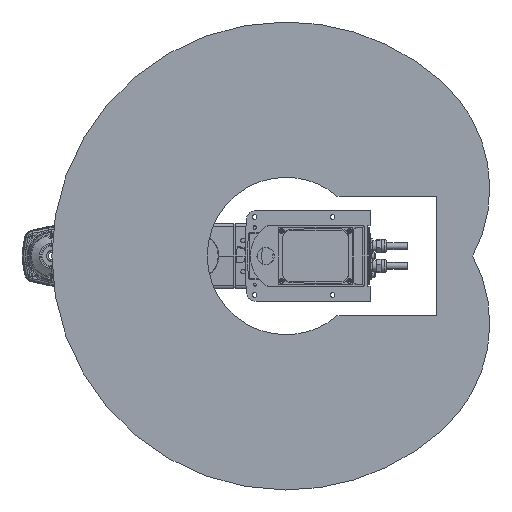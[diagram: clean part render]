
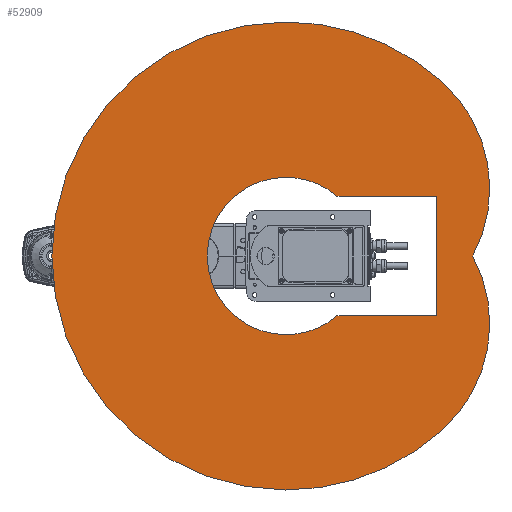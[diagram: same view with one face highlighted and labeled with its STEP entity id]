
A CAD part, front view. The second image highlights one B-rep face of the part: STEP entity #52909.
In plain terms, the highlighted planar face has unit normal (0, -1, 0).
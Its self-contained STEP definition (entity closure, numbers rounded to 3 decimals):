
#850 = DIRECTION ( 'NONE',  ( 0., -1., 0. ) ) ;
#11845 = VERTEX_POINT ( 'NONE', #237009 ) ;
#14800 = CARTESIAN_POINT ( 'NONE',  ( 0., -50., 0. ) ) ;
#21599 = DIRECTION ( 'NONE',  ( 0., 1., 0. ) ) ;
#23558 = DIRECTION ( 'NONE',  ( 0., 1., 0. ) ) ;
#23678 = ORIENTED_EDGE ( 'NONE', *, *, #191634, .F. ) ;
#24085 = AXIS2_PLACEMENT_3D ( 'NONE', #215050, #63551, #240434 ) ;
#28680 = FACE_BOUND ( 'NONE', #242321, .T. ) ;
#28753 = VERTEX_POINT ( 'NONE', #215798 ) ;
#29832 = EDGE_CURVE ( 'NONE', #190280, #173700, #168902, .T. ) ;
#34311 = ORIENTED_EDGE ( 'NONE', *, *, #154833, .F. ) ;
#36273 = VERTEX_POINT ( 'NONE', #48480 ) ;
#36365 = CIRCLE ( 'NONE', #101315, 151.311 ) ;
#40180 = DIRECTION ( 'NONE',  ( 0., 0., 1. ) ) ;
#44773 = DIRECTION ( 'NONE',  ( 0., -1., 0. ) ) ;
#45051 = CIRCLE ( 'NONE', #123862, 450. ) ;
#48368 = EDGE_CURVE ( 'NONE', #11845, #36273, #36365, .T. ) ;
#48480 = CARTESIAN_POINT ( 'NONE',  ( 0., -50., 151.311 ) ) ;
#52909 = ADVANCED_FACE ( 'NONE', ( #289719, #28680 ), #115179, .F. ) ;
#59450 = CIRCLE ( 'NONE', #130006, 151.311 ) ;
#60009 = ORIENTED_EDGE ( 'NONE', *, *, #219771, .F. ) ;
#63551 = DIRECTION ( 'NONE',  ( 0., 1., 0. ) ) ;
#69503 = EDGE_CURVE ( 'NONE', #36273, #223658, #186032, .T. ) ;
#75474 = CIRCLE ( 'NONE', #292931, 450. ) ;
#82720 = CARTESIAN_POINT ( 'NONE',  ( 0., -50., -450. ) ) ;
#101315 = AXIS2_PLACEMENT_3D ( 'NONE', #196285, #44773, #221636 ) ;
#108131 = LINE ( 'NONE', #111422, #242691 ) ;
#108960 = CIRCLE ( 'NONE', #176357, 275. ) ;
#111422 = CARTESIAN_POINT ( 'NONE',  ( 58.549, -50., 115. ) ) ;
#112557 = ORIENTED_EDGE ( 'NONE', *, *, #251528, .F. ) ;
#115179 = PLANE ( 'NONE',  #318365 ) ;
#116016 = AXIS2_PLACEMENT_3D ( 'NONE', #152338, #850, #177775 ) ;
#118565 = ORIENTED_EDGE ( 'NONE', *, *, #29832, .F. ) ;
#119702 = DIRECTION ( 'NONE',  ( 0., 1., 0. ) ) ;
#120371 = CIRCLE ( 'NONE', #295689, 275. ) ;
#121967 = DIRECTION ( 'NONE',  ( 1., 0., 0. ) ) ;
#123862 = AXIS2_PLACEMENT_3D ( 'NONE', #130877, #307714, #156369 ) ;
#130006 = AXIS2_PLACEMENT_3D ( 'NONE', #14800, #191705, #40180 ) ;
#130877 = CARTESIAN_POINT ( 'NONE',  ( 0., -50., 0. ) ) ;
#136449 = CARTESIAN_POINT ( 'NONE',  ( 301.109, -50., 334.415 ) ) ;
#140789 = CARTESIAN_POINT ( 'NONE',  ( 301.109, -50., -334.415 ) ) ;
#141757 = DIRECTION ( 'NONE',  ( 0., 1., 0. ) ) ;
#143714 = EDGE_CURVE ( 'NONE', #173700, #304537, #45051, .T. ) ;
#146430 = ORIENTED_EDGE ( 'NONE', *, *, #143714, .F. ) ;
#150921 = CARTESIAN_POINT ( 'NONE',  ( 290., -50., -115. ) ) ;
#152338 = CARTESIAN_POINT ( 'NONE',  ( 0., -50., 0. ) ) ;
#152457 = VECTOR ( 'NONE', #121967, 1000. ) ;
#154539 = CARTESIAN_POINT ( 'NONE',  ( 0., -50., 450. ) ) ;
#154833 = EDGE_CURVE ( 'NONE', #223658, #236527, #59450, .T. ) ;
#156369 = DIRECTION ( 'NONE',  ( 0., 0., 1. ) ) ;
#164646 = CARTESIAN_POINT ( 'NONE',  ( 290., -50., -65.025 ) ) ;
#168902 = CIRCLE ( 'NONE', #24085, 450. ) ;
#170103 = ORIENTED_EDGE ( 'NONE', *, *, #179052, .F. ) ;
#173068 = CARTESIAN_POINT ( 'NONE',  ( 117.098, -50., -130.05 ) ) ;
#173700 = VERTEX_POINT ( 'NONE', #154539 ) ;
#175038 = CARTESIAN_POINT ( 'NONE',  ( 117.098, -50., 130.05 ) ) ;
#176357 = AXIS2_PLACEMENT_3D ( 'NONE', #173068, #21599, #198475 ) ;
#176685 = ORIENTED_EDGE ( 'NONE', *, *, #321176, .F. ) ;
#177775 = DIRECTION ( 'NONE',  ( 0., 0., 1. ) ) ;
#179052 = EDGE_CURVE ( 'NONE', #304537, #319097, #120371, .T. ) ;
#186032 = CIRCLE ( 'NONE', #116016, 151.311 ) ;
#190280 = VERTEX_POINT ( 'NONE', #82720 ) ;
#191634 = EDGE_CURVE ( 'NONE', #28753, #11845, #108131, .T. ) ;
#191705 = DIRECTION ( 'NONE',  ( 0., -1., 0. ) ) ;
#196285 = CARTESIAN_POINT ( 'NONE',  ( 0., -50., 0. ) ) ;
#198475 = DIRECTION ( 'NONE',  ( 0., 0., 1. ) ) ;
#200442 = DIRECTION ( 'NONE',  ( 0., 0., 1. ) ) ;
#215050 = CARTESIAN_POINT ( 'NONE',  ( 0., -50., 0. ) ) ;
#215798 = CARTESIAN_POINT ( 'NONE',  ( 290., -50., 115. ) ) ;
#217123 = LINE ( 'NONE', #164646, #284315 ) ;
#218466 = VERTEX_POINT ( 'NONE', #140789 ) ;
#219771 = EDGE_CURVE ( 'NONE', #319097, #218466, #108960, .T. ) ;
#221636 = DIRECTION ( 'NONE',  ( 0., 0., 1. ) ) ;
#223658 = VERTEX_POINT ( 'NONE', #279351 ) ;
#231504 = ORIENTED_EDGE ( 'NONE', *, *, #69503, .F. ) ;
#236527 = VERTEX_POINT ( 'NONE', #288790 ) ;
#237009 = CARTESIAN_POINT ( 'NONE',  ( 98.336, -50., 115. ) ) ;
#240434 = DIRECTION ( 'NONE',  ( 0., 0., 1. ) ) ;
#242321 = EDGE_LOOP ( 'NONE', ( #271029, #34311, #231504, #298276, #23678, #176685 ) ) ;
#242691 = VECTOR ( 'NONE', #311535, 1000. ) ;
#248023 = CARTESIAN_POINT ( 'NONE',  ( 58.549, -50., -115. ) ) ;
#251528 = EDGE_CURVE ( 'NONE', #218466, #190280, #75474, .T. ) ;
#271029 = ORIENTED_EDGE ( 'NONE', *, *, #282016, .F. ) ;
#271172 = CARTESIAN_POINT ( 'NONE',  ( 0., -50., 0. ) ) ;
#273207 = CARTESIAN_POINT ( 'NONE',  ( 359.403, -50., 0. ) ) ;
#278983 = LINE ( 'NONE', #248023, #152457 ) ;
#279351 = CARTESIAN_POINT ( 'NONE',  ( 0., -50., -151.311 ) ) ;
#282016 = EDGE_CURVE ( 'NONE', #236527, #308945, #278983, .T. ) ;
#284315 = VECTOR ( 'NONE', #315986, 1000. ) ;
#288790 = CARTESIAN_POINT ( 'NONE',  ( 98.336, -50., -115. ) ) ;
#289719 = FACE_OUTER_BOUND ( 'NONE', #326072, .T. ) ;
#292931 = AXIS2_PLACEMENT_3D ( 'NONE', #271172, #119702, #296547 ) ;
#293105 = CARTESIAN_POINT ( 'NONE',  ( 58.549, -50., -65.025 ) ) ;
#295689 = AXIS2_PLACEMENT_3D ( 'NONE', #175038, #23558, #200442 ) ;
#296547 = DIRECTION ( 'NONE',  ( 0., 0., 1. ) ) ;
#298276 = ORIENTED_EDGE ( 'NONE', *, *, #48368, .F. ) ;
#304537 = VERTEX_POINT ( 'NONE', #136449 ) ;
#307714 = DIRECTION ( 'NONE',  ( 0., 1., 0. ) ) ;
#308945 = VERTEX_POINT ( 'NONE', #150921 ) ;
#311535 = DIRECTION ( 'NONE',  ( -1., 0., 0. ) ) ;
#315986 = DIRECTION ( 'NONE',  ( 0., 0., 1. ) ) ;
#318365 = AXIS2_PLACEMENT_3D ( 'NONE', #293105, #141757, #318539 ) ;
#318539 = DIRECTION ( 'NONE',  ( 0., 0., 1. ) ) ;
#319097 = VERTEX_POINT ( 'NONE', #273207 ) ;
#321176 = EDGE_CURVE ( 'NONE', #308945, #28753, #217123, .T. ) ;
#326072 = EDGE_LOOP ( 'NONE', ( #170103, #146430, #118565, #112557, #60009 ) ) ;
